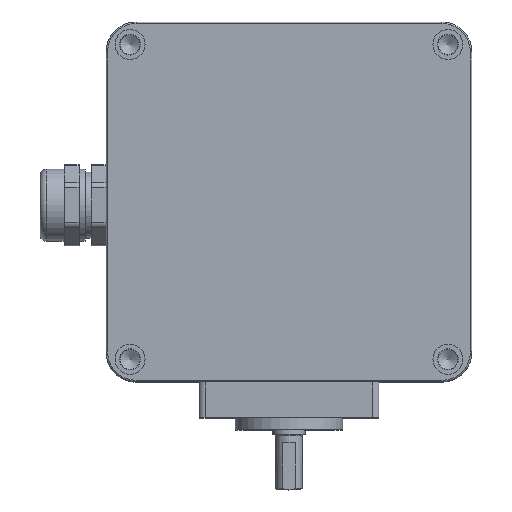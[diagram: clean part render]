
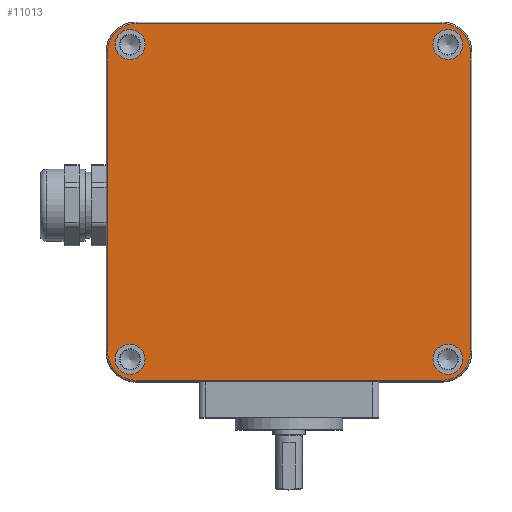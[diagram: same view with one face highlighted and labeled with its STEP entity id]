
A CAD part, top view. The second image highlights one B-rep face of the part: STEP entity #11013.
In plain terms, the highlighted planar face has unit normal (0, 0, 1) as drawn and (0, 0, -1) by its records, which use the part's own axes.
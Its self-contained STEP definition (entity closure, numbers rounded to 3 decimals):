
#10590=CARTESIAN_POINT('',(-51.,59.5,0.0));
#10591=VERTEX_POINT('',#10590);
#10609=CARTESIAN_POINT('',(51.0,59.5,0.0));
#10610=VERTEX_POINT('',#10609);
#10618=CARTESIAN_POINT('',(51.0,59.5,0.0));
#10619=DIRECTION('',(-1.0,0.0,0.0));
#10620=VECTOR('',#10619,102.0);
#10621=LINE('',#10618,#10620);
#10622=EDGE_CURVE('',#10610,#10591,#10621,.T.);
#10632=CARTESIAN_POINT('',(-60.5,50.0,0.0));
#10633=VERTEX_POINT('',#10632);
#10651=CARTESIAN_POINT('',(-51.,50.0,0.0));
#10652=DIRECTION('',(0.0,0.0,1.));
#10653=DIRECTION('',(-0.707,0.707,0.0));
#10654=AXIS2_PLACEMENT_3D('',#10651,#10652,#10653);
#10655=CIRCLE('',#10654,9.5);
#10656=EDGE_CURVE('',#10591,#10633,#10655,.T.);
#10668=CARTESIAN_POINT('',(60.5,50.0,0.0));
#10669=VERTEX_POINT('',#10668);
#10677=CARTESIAN_POINT('',(51.,50.0,0.0));
#10678=DIRECTION('',(0.0,0.0,1.));
#10679=DIRECTION('',(0.707,0.707,0.0));
#10680=AXIS2_PLACEMENT_3D('',#10677,#10678,#10679);
#10681=CIRCLE('',#10680,9.5);
#10682=EDGE_CURVE('',#10669,#10610,#10681,.T.);
#10700=CARTESIAN_POINT('',(-60.5,-50.0,0.0));
#10701=VERTEX_POINT('',#10700);
#10718=CARTESIAN_POINT('',(-60.5,50.0,0.0));
#10719=DIRECTION('',(0.0,-1.0,0.0));
#10720=VECTOR('',#10719,100.0);
#10721=LINE('',#10718,#10720);
#10722=EDGE_CURVE('',#10633,#10701,#10721,.T.);
#10734=CARTESIAN_POINT('',(60.5,-50.0,0.0));
#10735=VERTEX_POINT('',#10734);
#10743=CARTESIAN_POINT('',(60.5,-50.0,0.0));
#10744=DIRECTION('',(0.0,1.0,0.0));
#10745=VECTOR('',#10744,100.0);
#10746=LINE('',#10743,#10745);
#10747=EDGE_CURVE('',#10735,#10669,#10746,.T.);
#10764=CARTESIAN_POINT('',(-51.,-59.5,0.0));
#10765=VERTEX_POINT('',#10764);
#10783=CARTESIAN_POINT('',(-51.,-50.0,0.0));
#10784=DIRECTION('',(0.0,0.0,1.));
#10785=DIRECTION('',(-0.707,-0.707,0.0));
#10786=AXIS2_PLACEMENT_3D('',#10783,#10784,#10785);
#10787=CIRCLE('',#10786,9.5);
#10788=EDGE_CURVE('',#10701,#10765,#10787,.T.);
#10800=CARTESIAN_POINT('',(51.,-59.5,0.0));
#10801=VERTEX_POINT('',#10800);
#10809=CARTESIAN_POINT('',(51.,-50.0,0.0));
#10810=DIRECTION('',(0.0,0.0,1.));
#10811=DIRECTION('',(0.707,-0.707,0.0));
#10812=AXIS2_PLACEMENT_3D('',#10809,#10810,#10811);
#10813=CIRCLE('',#10812,9.5);
#10814=EDGE_CURVE('',#10801,#10735,#10813,.T.);
#10833=CARTESIAN_POINT('',(-51.,-59.5,0.0));
#10834=DIRECTION('',(1.0,0.0,0.0));
#10835=VECTOR('',#10834,102.);
#10836=LINE('',#10833,#10835);
#10837=EDGE_CURVE('',#10765,#10801,#10836,.T.);
#10954=CARTESIAN_POINT('',(0.,0.,0.0));
#10955=DIRECTION('',(0.0,0.0,1.0));
#10956=DIRECTION('',(1.0,0.0,0.0));
#10957=AXIS2_PLACEMENT_3D('',#10954,#10955,#10956);
#10958=PLANE('',#10957);
#10959=ORIENTED_EDGE('',*,*,#10622,.F.);
#10960=ORIENTED_EDGE('',*,*,#10682,.F.);
#10961=ORIENTED_EDGE('',*,*,#10747,.F.);
#10962=ORIENTED_EDGE('',*,*,#10814,.F.);
#10963=ORIENTED_EDGE('',*,*,#10837,.F.);
#10964=ORIENTED_EDGE('',*,*,#10788,.F.);
#10965=ORIENTED_EDGE('',*,*,#10722,.F.);
#10966=ORIENTED_EDGE('',*,*,#10656,.F.);
#10967=EDGE_LOOP('',(#10959,#10960,#10961,#10962,#10963,#10964,#10965,#10966));
#10968=FACE_OUTER_BOUND('',#10967,.T.);
#10969=CARTESIAN_POINT('',(-58.,52.5,0.0));
#10970=VERTEX_POINT('',#10969);
#10971=CARTESIAN_POINT('',(-53.,52.5,0.0));
#10972=DIRECTION('',(0.0,0.0,1.0));
#10973=DIRECTION('',(-1.0,0.0,0.0));
#10974=AXIS2_PLACEMENT_3D('',#10971,#10972,#10973);
#10975=CIRCLE('',#10974,5.0);
#10976=EDGE_CURVE('',#10970,#10970,#10975,.T.);
#10977=ORIENTED_EDGE('',*,*,#10976,.T.);
#10978=EDGE_LOOP('',(#10977));
#10979=FACE_BOUND('',#10978,.T.);
#10980=CARTESIAN_POINT('',(48.0,-52.5,0.0));
#10981=VERTEX_POINT('',#10980);
#10982=CARTESIAN_POINT('',(53.0,-52.5,0.0));
#10983=DIRECTION('',(0.0,0.0,1.0));
#10984=DIRECTION('',(-1.0,0.0,0.0));
#10985=AXIS2_PLACEMENT_3D('',#10982,#10983,#10984);
#10986=CIRCLE('',#10985,5.0);
#10987=EDGE_CURVE('',#10981,#10981,#10986,.T.);
#10988=ORIENTED_EDGE('',*,*,#10987,.T.);
#10989=EDGE_LOOP('',(#10988));
#10990=FACE_BOUND('',#10989,.T.);
#10991=CARTESIAN_POINT('',(-58.,-52.5,0.0));
#10992=VERTEX_POINT('',#10991);
#10993=CARTESIAN_POINT('',(-53.,-52.5,0.0));
#10994=DIRECTION('',(0.0,0.0,1.0));
#10995=DIRECTION('',(-1.0,0.0,0.0));
#10996=AXIS2_PLACEMENT_3D('',#10993,#10994,#10995);
#10997=CIRCLE('',#10996,5.0);
#10998=EDGE_CURVE('',#10992,#10992,#10997,.T.);
#10999=ORIENTED_EDGE('',*,*,#10998,.T.);
#11000=EDGE_LOOP('',(#10999));
#11001=FACE_BOUND('',#11000,.T.);
#11002=CARTESIAN_POINT('',(48.,52.5,0.0));
#11003=VERTEX_POINT('',#11002);
#11004=CARTESIAN_POINT('',(53.,52.5,0.0));
#11005=DIRECTION('',(0.0,0.0,1.0));
#11006=DIRECTION('',(-1.0,0.0,0.0));
#11007=AXIS2_PLACEMENT_3D('',#11004,#11005,#11006);
#11008=CIRCLE('',#11007,5.0);
#11009=EDGE_CURVE('',#11003,#11003,#11008,.T.);
#11010=ORIENTED_EDGE('',*,*,#11009,.T.);
#11011=EDGE_LOOP('',(#11010));
#11012=FACE_BOUND('',#11011,.T.);
#11013=ADVANCED_FACE('',(#10968,#10979,#10990,#11001,#11012),#10958,.F.);
